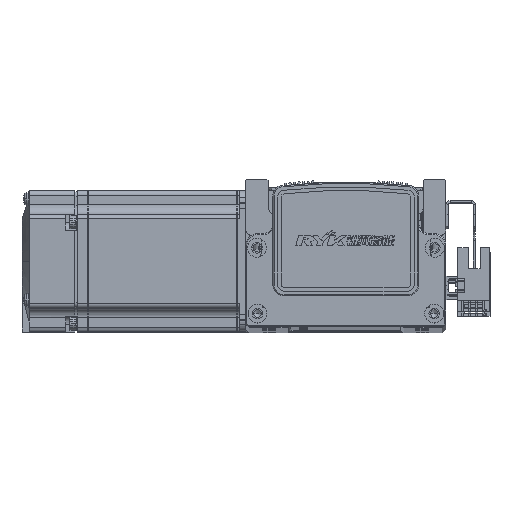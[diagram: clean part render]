
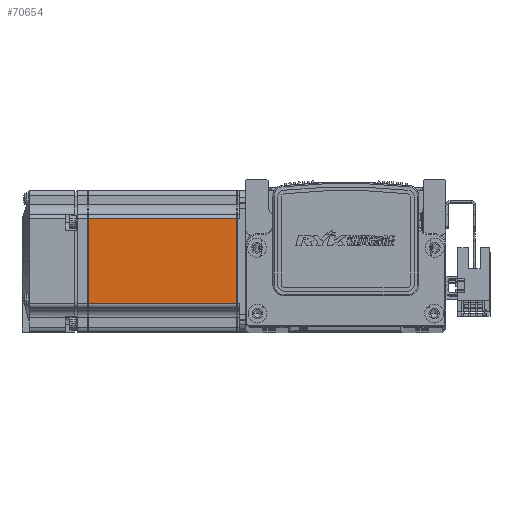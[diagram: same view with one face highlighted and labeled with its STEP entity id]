
A CAD part, top view. The second image highlights one B-rep face of the part: STEP entity #70654.
In plain terms, the highlighted planar face has unit normal (0, 0, 1) as drawn and (0, 0, -1) by its records, which use the part's own axes.
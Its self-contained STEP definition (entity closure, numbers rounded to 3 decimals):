
#3549 = VERTEX_POINT ( 'NONE', #65566 ) ;
#3605 = VERTEX_POINT ( 'NONE', #65592 ) ;
#3661 = VERTEX_POINT ( 'NONE', #65646 ) ;
#3699 = VERTEX_POINT ( 'NONE', #65640 ) ;
#8514 = ORIENTED_EDGE ( 'NONE', *, *, #63054, .T. ) ;
#8520 = ORIENTED_EDGE ( 'NONE', *, *, #63061, .T. ) ;
#8545 = ORIENTED_EDGE ( 'NONE', *, *, #63055, .T. ) ;
#8587 = ORIENTED_EDGE ( 'NONE', *, *, #63077, .T. ) ;
#13061 = EDGE_LOOP ( 'NONE', ( #8514, #8587, #8520, #8545 ) ) ;
#16185 = AXIS2_PLACEMENT_3D ( 'NONE', #31443, #31476, #31466 ) ;
#31442 = PLANE ( 'NONE',  #16185 ) ;
#31443 = CARTESIAN_POINT ( 'NONE',  ( -6.5, 25., -30. ) ) ;
#31466 = DIRECTION ( 'NONE',  ( -1., 0., 0. ) ) ;
#31476 = DIRECTION ( 'NONE',  ( 0., 0., -1. ) ) ;
#34931 = CARTESIAN_POINT ( 'NONE',  ( -6.5, 18., -30. ) ) ;
#34947 = CARTESIAN_POINT ( 'NONE',  ( -7.75, 25., -30. ) ) ;
#34962 = CARTESIAN_POINT ( 'NONE',  ( -70.95, 25., -30. ) ) ;
#34966 = CARTESIAN_POINT ( 'NONE',  ( -6.5, -18., -30. ) ) ;
#34967 = DIRECTION ( 'NONE',  ( -1., 0., 0. ) ) ;
#34977 = DIRECTION ( 'NONE',  ( 0., 1., 0. ) ) ;
#34978 = DIRECTION ( 'NONE',  ( 1., 0., 0. ) ) ;
#34986 = DIRECTION ( 'NONE',  ( 0., -1., 0. ) ) ;
#50050 = VECTOR ( 'NONE', #34978, 1000. ) ;
#50056 = LINE ( 'NONE', #34966, #50103 ) ;
#50089 = VECTOR ( 'NONE', #34986, 1000. ) ;
#50091 = LINE ( 'NONE', #34931, #50050 ) ;
#50093 = LINE ( 'NONE', #34962, #50094 ) ;
#50094 = VECTOR ( 'NONE', #34977, 1000. ) ;
#50103 = VECTOR ( 'NONE', #34967, 1000. ) ;
#50108 = LINE ( 'NONE', #34947, #50089 ) ;
#63054 = EDGE_CURVE ( 'NONE', #3605, #3549, #50108, .T. ) ;
#63055 = EDGE_CURVE ( 'NONE', #3699, #3605, #50091, .T. ) ;
#63061 = EDGE_CURVE ( 'NONE', #3661, #3699, #50093, .T. ) ;
#63077 = EDGE_CURVE ( 'NONE', #3549, #3661, #50056, .T. ) ;
#65566 = CARTESIAN_POINT ( 'NONE',  ( -7.75, -18., -30. ) ) ;
#65592 = CARTESIAN_POINT ( 'NONE',  ( -7.75, 18., -30. ) ) ;
#65640 = CARTESIAN_POINT ( 'NONE',  ( -70.95, 18., -30. ) ) ;
#65646 = CARTESIAN_POINT ( 'NONE',  ( -70.95, -18., -30. ) ) ;
#68970 = FACE_OUTER_BOUND ( 'NONE', #13061, .T. ) ;
#70654 = ADVANCED_FACE ( 'NONE', ( #68970 ), #31442, .T. ) ;
